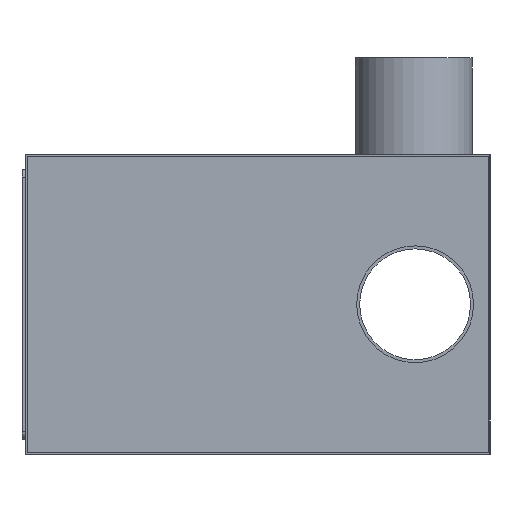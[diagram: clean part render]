
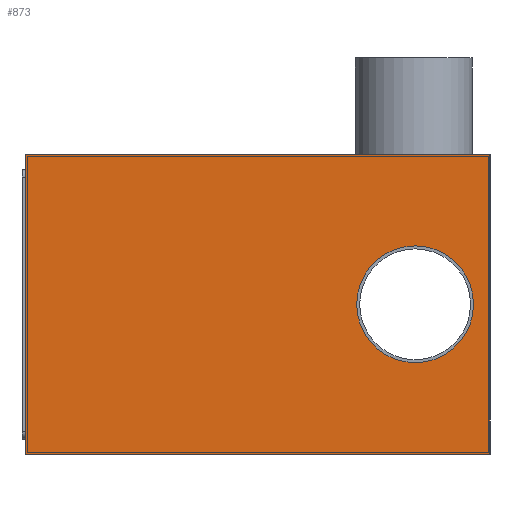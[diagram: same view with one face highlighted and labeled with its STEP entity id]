
A CAD part, left-side view. The second image highlights one B-rep face of the part: STEP entity #873.
In plain terms, the highlighted planar face has unit normal (-1, 0, 0).
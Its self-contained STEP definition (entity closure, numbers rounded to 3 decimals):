
#47=FACE_BOUND('',#241,.T.);
#96=PLANE('',#983);
#146=FACE_OUTER_BOUND('',#240,.T.);
#240=EDGE_LOOP('',(#729,#730,#731,#732));
#241=EDGE_LOOP('',(#733));
#320=LINE('',#1473,#360);
#321=LINE('',#1475,#361);
#322=LINE('',#1477,#362);
#323=LINE('',#1478,#363);
#360=VECTOR('',#1213,10.);
#361=VECTOR('',#1214,10.);
#362=VECTOR('',#1215,10.);
#363=VECTOR('',#1216,10.);
#411=CIRCLE('',#981,39.);
#485=VERTEX_POINT('',#1467);
#486=VERTEX_POINT('',#1471);
#487=VERTEX_POINT('',#1472);
#488=VERTEX_POINT('',#1474);
#489=VERTEX_POINT('',#1476);
#579=EDGE_CURVE('',#485,#485,#411,.T.);
#580=EDGE_CURVE('',#486,#487,#320,.T.);
#581=EDGE_CURVE('',#487,#488,#321,.T.);
#582=EDGE_CURVE('',#489,#488,#322,.T.);
#583=EDGE_CURVE('',#486,#489,#323,.T.);
#729=ORIENTED_EDGE('',*,*,#580,.T.);
#730=ORIENTED_EDGE('',*,*,#581,.T.);
#731=ORIENTED_EDGE('',*,*,#582,.F.);
#732=ORIENTED_EDGE('',*,*,#583,.F.);
#733=ORIENTED_EDGE('',*,*,#579,.T.);
#873=ADVANCED_FACE('',(#146,#47),#96,.T.);
#981=AXIS2_PLACEMENT_3D('',#1468,#1207,#1208);
#983=AXIS2_PLACEMENT_3D('',#1470,#1211,#1212);
#1207=DIRECTION('center_axis',(1.,0.,0.));
#1208=DIRECTION('ref_axis',(0.,0.,1.));
#1211=DIRECTION('center_axis',(-1.,0.,0.));
#1212=DIRECTION('ref_axis',(0.,-1.,0.));
#1213=DIRECTION('',(0.,-1.,0.));
#1214=DIRECTION('',(0.,0.,1.));
#1215=DIRECTION('',(0.,-1.,0.));
#1216=DIRECTION('',(0.,0.,1.));
#1467=CARTESIAN_POINT('',(-336.5,-105.,61.));
#1468=CARTESIAN_POINT('Origin',(-336.5,-105.,100.));
#1470=CARTESIAN_POINT('Origin',(-336.5,155.,0.));
#1471=CARTESIAN_POINT('',(-336.5,155.,0.));
#1472=CARTESIAN_POINT('',(-336.5,-155.,0.));
#1473=CARTESIAN_POINT('',(-336.5,155.,0.));
#1474=CARTESIAN_POINT('',(-336.5,-155.,200.));
#1475=CARTESIAN_POINT('',(-336.5,-155.,0.));
#1476=CARTESIAN_POINT('',(-336.5,155.,200.));
#1477=CARTESIAN_POINT('',(-336.5,155.,200.));
#1478=CARTESIAN_POINT('',(-336.5,155.,0.));
